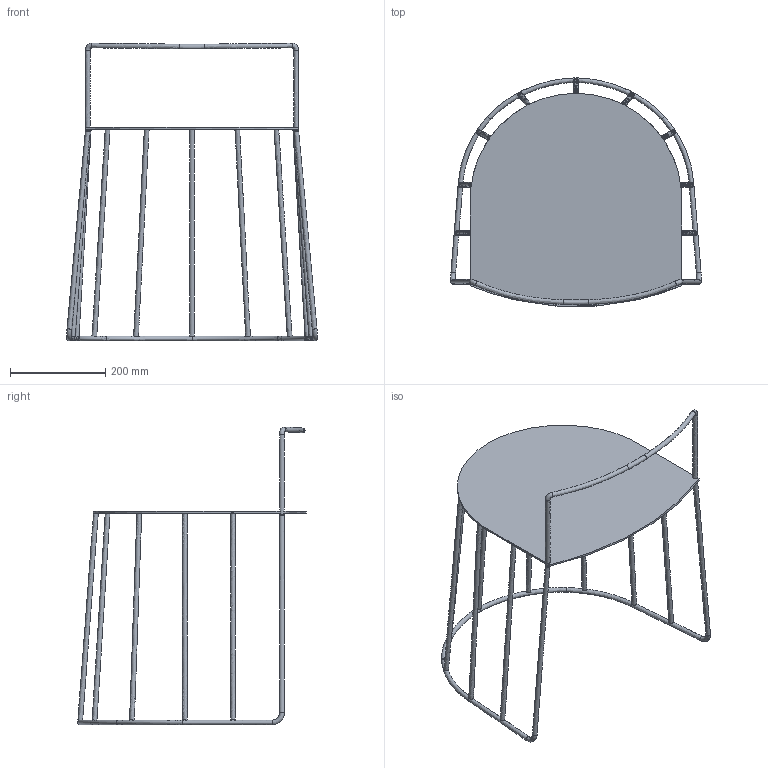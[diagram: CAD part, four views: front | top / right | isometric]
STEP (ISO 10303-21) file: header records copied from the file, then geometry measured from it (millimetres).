
FILE_DESCRIPTION(/* description */ (''),/* implementation_level */ '2;1');
FILE_NAME(/* name */ 'Sedia',/* time_stamp */ '2024-06-20T18:21:43+02:00',/* author */ (''),/* organization */ (''),/* preprocessor_version */ 'ST-DEVELOPER v16.5',/* originating_system */ '',/* authorisation */ '');
FILE_SCHEMA (('AUTOMOTIVE_DESIGN'));
Length unit declared in the file: millimetre
Products named in the file (1): Document
Bounding box: 527.84 x 481.29 x 626.73 mm (x, y, z)
Volume: 1187341.9 mm3; surface area: 563309.2 mm2
Topology: 11 solids, 11 shells, 54 faces, 83 edges, 49 vertices
Faces by surface type: bspline 54
Entity records: 4955 total; most frequent: CARTESIAN_POINT 3848, ORIENTED_EDGE 166, PCURVE 166, DEFINITIONAL_REPRESENTATION 166, B_SPLINE_CURVE_WITH_KNOTS 155, SURFACE_CURVE 83, EDGE_CURVE 83, ADVANCED_FACE 54
